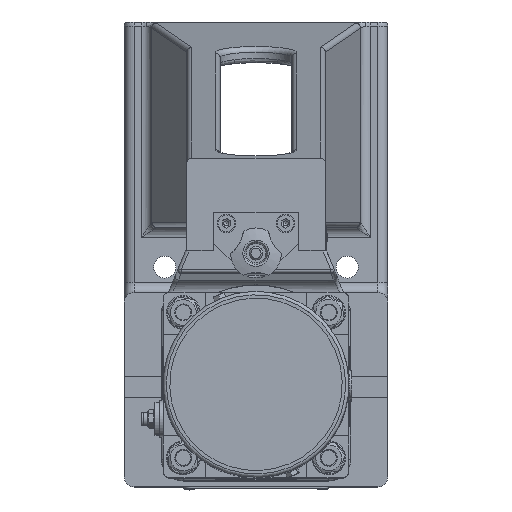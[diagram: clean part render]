
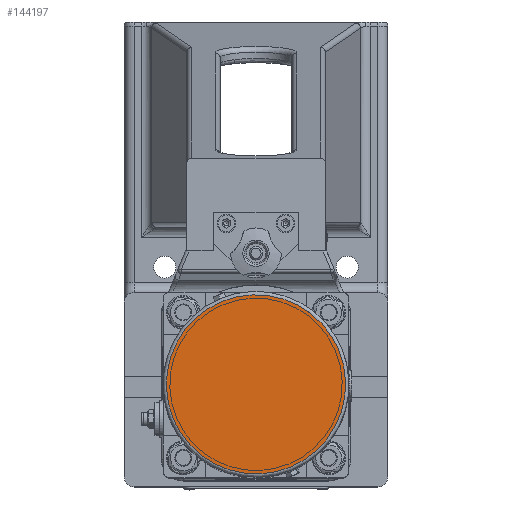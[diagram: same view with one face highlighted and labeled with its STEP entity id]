
A CAD part, top view. The second image highlights one B-rep face of the part: STEP entity #144197.
In plain terms, the highlighted planar face has unit normal (0, 0, 1).
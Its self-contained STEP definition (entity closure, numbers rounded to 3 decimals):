
#38404=PLANE('',#151459);
#45376=FACE_OUTER_BOUND('',#53093,.T.);
#53093=EDGE_LOOP('',(#111968));
#58361=CIRCLE('',#151458,53.);
#65372=VERTEX_POINT('',#213254);
#82133=EDGE_CURVE('',#65372,#65372,#58361,.T.);
#111968=ORIENTED_EDGE('',*,*,#82133,.F.);
#144197=ADVANCED_FACE('',(#45376),#38404,.F.);
#151458=AXIS2_PLACEMENT_3D('',#213255,#168612,#168613);
#151459=AXIS2_PLACEMENT_3D('',#213256,#168614,#168615);
#168612=DIRECTION('center_axis',(0.,0.,
-1.));
#168613=DIRECTION('ref_axis',(-0.924,-0.383,0.));
#168614=DIRECTION('center_axis',(0.,0.,
-1.));
#168615=DIRECTION('ref_axis',(-0.924,-0.383,0.));
#213254=CARTESIAN_POINT('',(48.966,6.282,672.));
#213255=CARTESIAN_POINT('Origin',(0.,-14.,
672.));
#213256=CARTESIAN_POINT('Origin',(0.,-14.,
672.));
